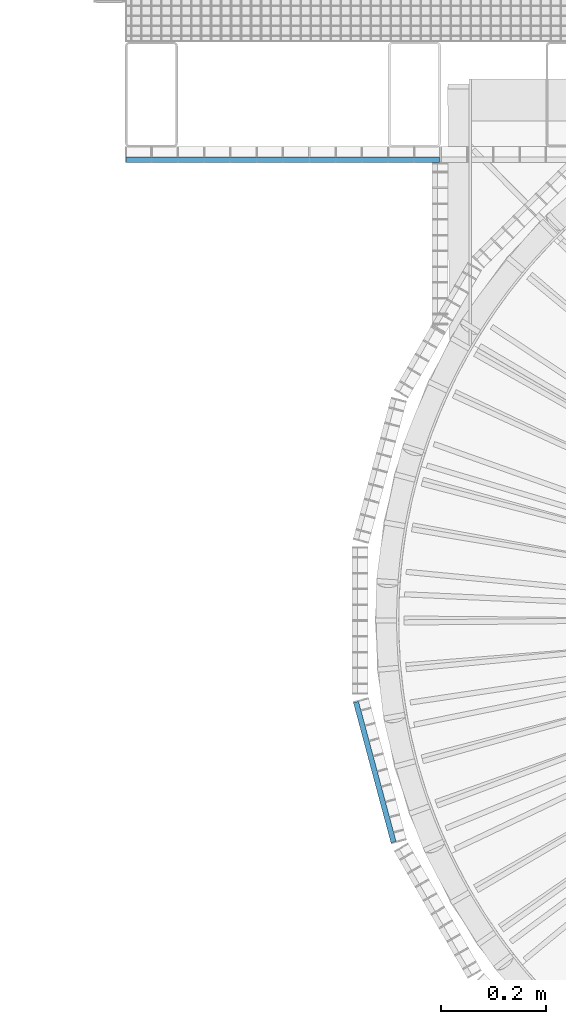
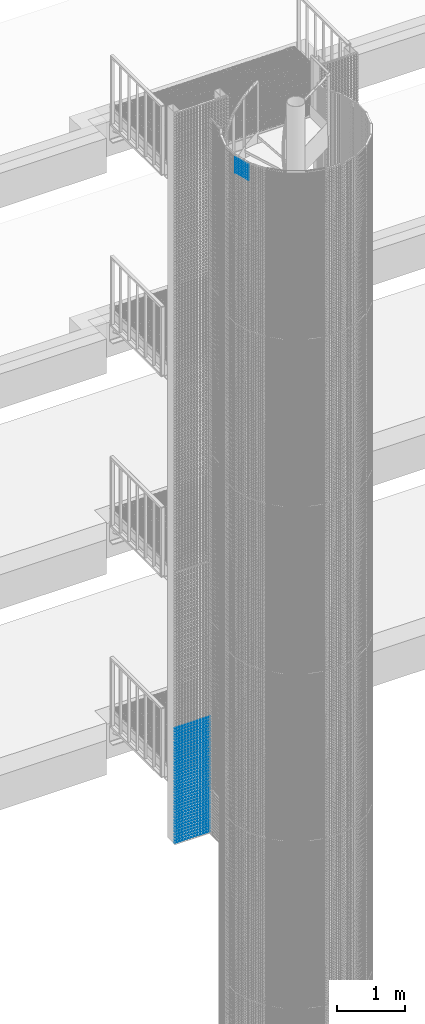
# One storey, part 336 of 1183: 52 beams, 43 elements without a shape of their own.
"""IFC2X3 building model written with IfcOpenShell, lengths in millimetres."""

from ifc_helpers import new_model, si_unit, frame, origin_with_axes, origin_2d_with_axis, place, context, subcontext, project, spatial, rectangle, extrude, material, type_object, element, aggregate, save


model = new_model("IFC2X3")

# Units and contexts
model_context = context("Model", 3, precision=1e-05, world=origin_with_axes())
body_context = subcontext(model_context, "Body", "Model", "MODEL_VIEW")
ifc_project = project(units=[si_unit("LENGTHUNIT", "METRE", prefix="MILLI"), si_unit("AREAUNIT", "SQUARE_METRE"), si_unit("VOLUMEUNIT", "CUBIC_METRE"), si_unit("MASSUNIT", "GRAM", prefix="KILO"), si_unit("TIMEUNIT", "SECOND"), si_unit("PLANEANGLEUNIT", "RADIAN"), si_unit("SOLIDANGLEUNIT", "STERADIAN"), si_unit("THERMODYNAMICTEMPERATUREUNIT", "DEGREE_CELSIUS"), si_unit("LUMINOUSINTENSITYUNIT", "LUMEN")], contexts=[model_context])

# Site, building, storey
site_placement = place(None, origin_with_axes())
site = spatial("IfcSite", under=ifc_project, at=site_placement, Name="Undefined", CompositionType="ELEMENT")
building_placement = place(site_placement, origin_with_axes())
building = spatial("IfcBuilding", under=site, at=building_placement, Name="Undefined", CompositionType="ELEMENT")
storey_placement = place(building_placement, origin_with_axes())
storey = spatial("IfcBuildingStorey", under=building, at=storey_placement, Name="Undefined", CompositionType="ELEMENT", Elevation=0.0)

# Assembly, beams
assembly_1_placement = place(storey_placement, origin_with_axes())
assembly_1 = element("IfcElementAssembly", 1, at=assembly_1_placement, inside=storey, Name="BORDURE", AssemblyPlace="NOTDEFINED", PredefinedType="NOTDEFINED")
ifc_material = material(Name="STEEL/S235JR")
beam_type = type_object("IfcBeamType", Name="PL2*10", PredefinedType="NOTDEFINED")
beam_1_placement = place(assembly_1_placement, frame((20560.1769047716, -421.483733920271, 17970.0), z_axis=(-0.965925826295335, -0.258819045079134, 0.0), x_axis=(-0.258819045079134, 0.965925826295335, 0.0)))
beam_1 = element("IfcBeam", 2, at=beam_1_placement, type_object=beam_type, material=ifc_material, Name="ENTRETOISE", context=body_context, shape_type="SweptSolid", body=[
    extrude(rectangle(XDim=2.0, YDim=10.0, at=origin_2d_with_axis()), frame((275.999999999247, 9.09494701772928e-13, 1.53210777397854e-14), z_axis=(-1.0, 0.0, 0.0), x_axis=(0.0, -1.0, 0.0)), (0.0, 0.0, 1.0), 276.0),
])
beam_2_placement = place(assembly_1_placement, frame((20560.1769047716, -421.483733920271, 17940.0), z_axis=(-0.965925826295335, -0.258819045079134, 0.0), x_axis=(-0.258819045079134, 0.965925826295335, 0.0)))
beam_2 = element("IfcBeam", 3, at=beam_2_placement, type_object=beam_type, material=ifc_material, Name="ENTRETOISE", context=body_context, shape_type="SweptSolid", body=[
    extrude(rectangle(XDim=2.0, YDim=10.0, at=origin_2d_with_axis()), frame((275.999999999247, 9.09494701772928e-13, 1.53210777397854e-14), z_axis=(-1.0, 0.0, 0.0), x_axis=(0.0, -1.0, 0.0)), (0.0, 0.0, 1.0), 276.0),
])
beam_3_placement = place(assembly_1_placement, frame((20560.1769047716, -421.483733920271, 17910.0), z_axis=(-0.965925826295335, -0.258819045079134, 0.0), x_axis=(-0.258819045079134, 0.965925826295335, 0.0)))
beam_3 = element("IfcBeam", 4, at=beam_3_placement, type_object=beam_type, material=ifc_material, Name="ENTRETOISE", context=body_context, shape_type="SweptSolid", body=[
    extrude(rectangle(XDim=2.0, YDim=10.0, at=origin_2d_with_axis()), frame((275.999999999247, 9.09494701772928e-13, 1.53210777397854e-14), z_axis=(-1.0, 0.0, 0.0), x_axis=(0.0, -1.0, 0.0)), (0.0, 0.0, 1.0), 276.0),
])
beam_4_placement = place(assembly_1_placement, frame((20560.1769047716, -421.483733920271, 17880.0), z_axis=(-0.965925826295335, -0.258819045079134, 0.0), x_axis=(-0.258819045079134, 0.965925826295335, 0.0)))
beam_4 = element("IfcBeam", 5, at=beam_4_placement, type_object=beam_type, material=ifc_material, Name="ENTRETOISE", context=body_context, shape_type="SweptSolid", body=[
    extrude(rectangle(XDim=2.0, YDim=10.0, at=origin_2d_with_axis()), frame((275.999999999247, 9.09494701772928e-13, 1.53210777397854e-14), z_axis=(-1.0, 0.0, 0.0), x_axis=(0.0, -1.0, 0.0)), (0.0, 0.0, 1.0), 276.0),
])
beam_5_placement = place(assembly_1_placement, frame((20560.1769047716, -421.483733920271, 17850.0), z_axis=(-0.965925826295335, -0.258819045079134, 0.0), x_axis=(-0.258819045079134, 0.965925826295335, 0.0)))
beam_5 = element("IfcBeam", 6, at=beam_5_placement, type_object=beam_type, material=ifc_material, Name="ENTRETOISE", context=body_context, shape_type="SweptSolid", body=[
    extrude(rectangle(XDim=2.0, YDim=10.0, at=origin_2d_with_axis()), frame((275.999999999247, 9.09494701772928e-13, 1.53210777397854e-14), z_axis=(-1.0, 0.0, 0.0), x_axis=(0.0, -1.0, 0.0)), (0.0, 0.0, 1.0), 276.0),
])
beam_6_placement = place(assembly_1_placement, frame((20560.1769047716, -421.483733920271, 17820.0), z_axis=(-0.965925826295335, -0.258819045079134, 0.0), x_axis=(-0.258819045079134, 0.965925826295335, 0.0)))
beam_6 = element("IfcBeam", 7, at=beam_6_placement, type_object=beam_type, material=ifc_material, Name="ENTRETOISE", context=body_context, shape_type="SweptSolid", body=[
    extrude(rectangle(XDim=2.0, YDim=10.0, at=origin_2d_with_axis()), frame((275.999999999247, 9.09494701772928e-13, 1.53210777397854e-14), z_axis=(-1.0, 0.0, 0.0), x_axis=(0.0, -1.0, 0.0)), (0.0, 0.0, 1.0), 276.0),
])
beam_7_placement = place(assembly_1_placement, frame((20560.1769047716, -421.483733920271, 17790.0), z_axis=(-0.965925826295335, -0.258819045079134, 0.0), x_axis=(-0.258819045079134, 0.965925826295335, 0.0)))
beam_7 = element("IfcBeam", 8, at=beam_7_placement, type_object=beam_type, material=ifc_material, Name="ENTRETOISE", context=body_context, shape_type="SweptSolid", body=[
    extrude(rectangle(XDim=2.0, YDim=10.0, at=origin_2d_with_axis()), frame((275.999999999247, 9.09494701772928e-13, 1.53210777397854e-14), z_axis=(-1.0, 0.0, 0.0), x_axis=(0.0, -1.0, 0.0)), (0.0, 0.0, 1.0), 276.0),
])
beam_8_placement = place(assembly_1_placement, frame((20560.1769047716, -421.483733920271, 17760.0), z_axis=(-0.965925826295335, -0.258819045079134, 0.0), x_axis=(-0.258819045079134, 0.965925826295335, 0.0)))
beam_8 = element("IfcBeam", 9, at=beam_8_placement, type_object=beam_type, material=ifc_material, Name="ENTRETOISE", context=body_context, shape_type="SweptSolid", body=[
    extrude(rectangle(XDim=2.0, YDim=10.0, at=origin_2d_with_axis()), frame((275.999999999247, 9.09494701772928e-13, 1.53210777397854e-14), z_axis=(-1.0, 0.0, 0.0), x_axis=(0.0, -1.0, 0.0)), (0.0, 0.0, 1.0), 276.0),
])
beam_9_placement = place(assembly_1_placement, frame((20560.1769047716, -421.48373392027, 17730.0), z_axis=(-0.965925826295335, -0.258819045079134, 0.0), x_axis=(-0.258819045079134, 0.965925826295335, 0.0)))
beam_9 = element("IfcBeam", 10, at=beam_9_placement, type_object=beam_type, material=ifc_material, Name="ENTRETOISE", context=body_context, shape_type="SweptSolid", body=[
    extrude(rectangle(XDim=2.0, YDim=10.0, at=origin_2d_with_axis()), frame((275.999999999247, 9.09494701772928e-13, 1.53210777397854e-14), z_axis=(-1.0, 0.0, 0.0), x_axis=(0.0, -1.0, 0.0)), (0.0, 0.0, 1.0), 276.0),
])
beam_10_placement = place(assembly_1_placement, frame((20560.1769047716, -421.48373392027, 17700.0), z_axis=(-0.965925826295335, -0.258819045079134, 0.0), x_axis=(-0.258819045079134, 0.965925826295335, 0.0)))
beam_10 = element("IfcBeam", 11, at=beam_10_placement, type_object=beam_type, material=ifc_material, Name="ENTRETOISE", context=body_context, shape_type="SweptSolid", body=[
    extrude(rectangle(XDim=2.0, YDim=10.0, at=origin_2d_with_axis()), frame((275.999999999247, 9.09494701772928e-13, 1.53210777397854e-14), z_axis=(-1.0, 0.0, 0.0), x_axis=(0.0, -1.0, 0.0)), (0.0, 0.0, 1.0), 276.0),
])
aggregate(assembly_1, [beam_1, beam_2, beam_3, beam_4, beam_5, beam_6, beam_7, beam_8, beam_9, beam_10])

# Assembly, beam
assembly_2_placement = place(storey_placement, origin_with_axes())
assembly_2 = element("IfcElementAssembly", 12, at=assembly_2_placement, inside=storey, AssemblyPlace="NOTDEFINED", PredefinedType="NOTDEFINED")
beam_11_placement = place(assembly_2_placement, frame((20647.930410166, 876.014689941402, 7254.998), z_axis=(0.0, -1.0, 0.0), x_axis=(-1.0, 0.0, 0.0)))
beam_11 = element("IfcBeam", 13, at=beam_11_placement, type_object=beam_type, material=ifc_material, Name="ENTRETOISE", context=body_context, shape_type="SweptSolid", body=[
    extrude(rectangle(XDim=2.0, YDim=10.0, at=origin_2d_with_axis()), frame((596.0, 0.0, 0.0), z_axis=(-1.0, 0.0, 0.0), x_axis=(0.0, -1.0, 0.0)), (0.0, 0.0, 1.0), 596.0),
])
aggregate(assembly_2, [beam_11])

assembly_3_placement = place(storey_placement, origin_with_axes())
assembly_3 = element("IfcElementAssembly", 14, at=assembly_3_placement, inside=storey, AssemblyPlace="NOTDEFINED", PredefinedType="NOTDEFINED")
beam_12_placement = place(assembly_3_placement, frame((20647.930410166, 876.014689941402, 7204.998), z_axis=(0.0, -1.0, 0.0), x_axis=(-1.0, 0.0, 0.0)))
beam_12 = element("IfcBeam", 15, at=beam_12_placement, type_object=beam_type, material=ifc_material, Name="ENTRETOISE", context=body_context, shape_type="SweptSolid", body=[
    extrude(rectangle(XDim=2.0, YDim=10.0, at=origin_2d_with_axis()), frame((596.0, 0.0, 0.0), z_axis=(-1.0, 0.0, 0.0), x_axis=(0.0, -1.0, 0.0)), (0.0, 0.0, 1.0), 596.0),
])
aggregate(assembly_3, [beam_12])

assembly_4_placement = place(storey_placement, origin_with_axes())
assembly_4 = element("IfcElementAssembly", 16, at=assembly_4_placement, inside=storey, AssemblyPlace="NOTDEFINED", PredefinedType="NOTDEFINED")
beam_13_placement = place(assembly_4_placement, frame((20647.930410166, 876.014689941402, 7154.998), z_axis=(0.0, -1.0, 0.0), x_axis=(-1.0, 0.0, 0.0)))
beam_13 = element("IfcBeam", 17, at=beam_13_placement, type_object=beam_type, material=ifc_material, Name="ENTRETOISE", context=body_context, shape_type="SweptSolid", body=[
    extrude(rectangle(XDim=2.0, YDim=10.0, at=origin_2d_with_axis()), frame((596.0, 0.0, 0.0), z_axis=(-1.0, 0.0, 0.0), x_axis=(0.0, -1.0, 0.0)), (0.0, 0.0, 1.0), 596.0),
])
aggregate(assembly_4, [beam_13])

assembly_5_placement = place(storey_placement, origin_with_axes())
assembly_5 = element("IfcElementAssembly", 18, at=assembly_5_placement, inside=storey, AssemblyPlace="NOTDEFINED", PredefinedType="NOTDEFINED")
beam_14_placement = place(assembly_5_placement, frame((20647.930410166, 876.014689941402, 7104.998), z_axis=(0.0, -1.0, 0.0), x_axis=(-1.0, 0.0, 0.0)))
beam_14 = element("IfcBeam", 19, at=beam_14_placement, type_object=beam_type, material=ifc_material, Name="ENTRETOISE", context=body_context, shape_type="SweptSolid", body=[
    extrude(rectangle(XDim=2.0, YDim=10.0, at=origin_2d_with_axis()), frame((596.0, 0.0, 0.0), z_axis=(-1.0, 0.0, 0.0), x_axis=(0.0, -1.0, 0.0)), (0.0, 0.0, 1.0), 596.0),
])
aggregate(assembly_5, [beam_14])

assembly_6_placement = place(storey_placement, origin_with_axes())
assembly_6 = element("IfcElementAssembly", 20, at=assembly_6_placement, inside=storey, AssemblyPlace="NOTDEFINED", PredefinedType="NOTDEFINED")
beam_15_placement = place(assembly_6_placement, frame((20647.930410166, 876.014689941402, 7054.998), z_axis=(0.0, -1.0, 0.0), x_axis=(-1.0, 0.0, 0.0)))
beam_15 = element("IfcBeam", 21, at=beam_15_placement, type_object=beam_type, material=ifc_material, Name="ENTRETOISE", context=body_context, shape_type="SweptSolid", body=[
    extrude(rectangle(XDim=2.0, YDim=10.0, at=origin_2d_with_axis()), frame((596.0, 0.0, 0.0), z_axis=(-1.0, 0.0, 0.0), x_axis=(0.0, -1.0, 0.0)), (0.0, 0.0, 1.0), 596.0),
])
aggregate(assembly_6, [beam_15])

assembly_7_placement = place(storey_placement, origin_with_axes())
assembly_7 = element("IfcElementAssembly", 22, at=assembly_7_placement, inside=storey, AssemblyPlace="NOTDEFINED", PredefinedType="NOTDEFINED")
beam_16_placement = place(assembly_7_placement, frame((20647.930410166, 876.014689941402, 7004.998), z_axis=(0.0, -1.0, 0.0), x_axis=(-1.0, 0.0, 0.0)))
beam_16 = element("IfcBeam", 23, at=beam_16_placement, type_object=beam_type, material=ifc_material, Name="ENTRETOISE", context=body_context, shape_type="SweptSolid", body=[
    extrude(rectangle(XDim=2.0, YDim=10.0, at=origin_2d_with_axis()), frame((596.0, 0.0, 0.0), z_axis=(-1.0, 0.0, 0.0), x_axis=(0.0, -1.0, 0.0)), (0.0, 0.0, 1.0), 596.0),
])
aggregate(assembly_7, [beam_16])

assembly_8_placement = place(storey_placement, origin_with_axes())
assembly_8 = element("IfcElementAssembly", 24, at=assembly_8_placement, inside=storey, AssemblyPlace="NOTDEFINED", PredefinedType="NOTDEFINED")
beam_17_placement = place(assembly_8_placement, frame((20647.930410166, 876.014689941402, 6954.998), z_axis=(0.0, -1.0, 0.0), x_axis=(-1.0, 0.0, 0.0)))
beam_17 = element("IfcBeam", 25, at=beam_17_placement, type_object=beam_type, material=ifc_material, Name="ENTRETOISE", context=body_context, shape_type="SweptSolid", body=[
    extrude(rectangle(XDim=2.0, YDim=10.0, at=origin_2d_with_axis()), frame((596.0, 0.0, 0.0), z_axis=(-1.0, 0.0, 0.0), x_axis=(0.0, -1.0, 0.0)), (0.0, 0.0, 1.0), 596.0),
])
aggregate(assembly_8, [beam_17])

assembly_9_placement = place(storey_placement, origin_with_axes())
assembly_9 = element("IfcElementAssembly", 26, at=assembly_9_placement, inside=storey, AssemblyPlace="NOTDEFINED", PredefinedType="NOTDEFINED")
beam_18_placement = place(assembly_9_placement, frame((20647.930410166, 876.014689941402, 6904.998), z_axis=(0.0, -1.0, 0.0), x_axis=(-1.0, 0.0, 0.0)))
beam_18 = element("IfcBeam", 27, at=beam_18_placement, type_object=beam_type, material=ifc_material, Name="ENTRETOISE", context=body_context, shape_type="SweptSolid", body=[
    extrude(rectangle(XDim=2.0, YDim=10.0, at=origin_2d_with_axis()), frame((596.0, 0.0, 0.0), z_axis=(-1.0, 0.0, 0.0), x_axis=(0.0, -1.0, 0.0)), (0.0, 0.0, 1.0), 596.0),
])
aggregate(assembly_9, [beam_18])

assembly_10_placement = place(storey_placement, origin_with_axes())
assembly_10 = element("IfcElementAssembly", 28, at=assembly_10_placement, inside=storey, AssemblyPlace="NOTDEFINED", PredefinedType="NOTDEFINED")
beam_19_placement = place(assembly_10_placement, frame((20647.930410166, 876.014689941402, 6854.998), z_axis=(0.0, -1.0, 0.0), x_axis=(-1.0, 0.0, 0.0)))
beam_19 = element("IfcBeam", 29, at=beam_19_placement, type_object=beam_type, material=ifc_material, Name="ENTRETOISE", context=body_context, shape_type="SweptSolid", body=[
    extrude(rectangle(XDim=2.0, YDim=10.0, at=origin_2d_with_axis()), frame((596.0, 0.0, 0.0), z_axis=(-1.0, 0.0, 0.0), x_axis=(0.0, -1.0, 0.0)), (0.0, 0.0, 1.0), 596.0),
])
aggregate(assembly_10, [beam_19])

assembly_11_placement = place(storey_placement, origin_with_axes())
assembly_11 = element("IfcElementAssembly", 30, at=assembly_11_placement, inside=storey, AssemblyPlace="NOTDEFINED", PredefinedType="NOTDEFINED")
beam_20_placement = place(assembly_11_placement, frame((20647.930410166, 876.014689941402, 6804.998), z_axis=(0.0, -1.0, 0.0), x_axis=(-1.0, 0.0, 0.0)))
beam_20 = element("IfcBeam", 31, at=beam_20_placement, type_object=beam_type, material=ifc_material, Name="ENTRETOISE", context=body_context, shape_type="SweptSolid", body=[
    extrude(rectangle(XDim=2.0, YDim=10.0, at=origin_2d_with_axis()), frame((596.0, 0.0, 0.0), z_axis=(-1.0, 0.0, 0.0), x_axis=(0.0, -1.0, 0.0)), (0.0, 0.0, 1.0), 596.0),
])
aggregate(assembly_11, [beam_20])

assembly_12_placement = place(storey_placement, origin_with_axes())
assembly_12 = element("IfcElementAssembly", 32, at=assembly_12_placement, inside=storey, AssemblyPlace="NOTDEFINED", PredefinedType="NOTDEFINED")
beam_21_placement = place(assembly_12_placement, frame((20647.930410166, 876.014689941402, 6754.998), z_axis=(0.0, -1.0, 0.0), x_axis=(-1.0, 0.0, 0.0)))
beam_21 = element("IfcBeam", 33, at=beam_21_placement, type_object=beam_type, material=ifc_material, Name="ENTRETOISE", context=body_context, shape_type="SweptSolid", body=[
    extrude(rectangle(XDim=2.0, YDim=10.0, at=origin_2d_with_axis()), frame((596.0, 0.0, 0.0), z_axis=(-1.0, 0.0, 0.0), x_axis=(0.0, -1.0, 0.0)), (0.0, 0.0, 1.0), 596.0),
])
aggregate(assembly_12, [beam_21])

assembly_13_placement = place(storey_placement, origin_with_axes())
assembly_13 = element("IfcElementAssembly", 34, at=assembly_13_placement, inside=storey, AssemblyPlace="NOTDEFINED", PredefinedType="NOTDEFINED")
beam_22_placement = place(assembly_13_placement, frame((20647.930410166, 876.014689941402, 6704.998), z_axis=(0.0, -1.0, 0.0), x_axis=(-1.0, 0.0, 0.0)))
beam_22 = element("IfcBeam", 35, at=beam_22_placement, type_object=beam_type, material=ifc_material, Name="ENTRETOISE", context=body_context, shape_type="SweptSolid", body=[
    extrude(rectangle(XDim=2.0, YDim=10.0, at=origin_2d_with_axis()), frame((596.0, 0.0, 0.0), z_axis=(-1.0, 0.0, 0.0), x_axis=(0.0, -1.0, 0.0)), (0.0, 0.0, 1.0), 596.0),
])
aggregate(assembly_13, [beam_22])

assembly_14_placement = place(storey_placement, origin_with_axes())
assembly_14 = element("IfcElementAssembly", 36, at=assembly_14_placement, inside=storey, AssemblyPlace="NOTDEFINED", PredefinedType="NOTDEFINED")
beam_23_placement = place(assembly_14_placement, frame((20647.930410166, 876.014689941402, 6654.998), z_axis=(0.0, -1.0, 0.0), x_axis=(-1.0, 0.0, 0.0)))
beam_23 = element("IfcBeam", 37, at=beam_23_placement, type_object=beam_type, material=ifc_material, Name="ENTRETOISE", context=body_context, shape_type="SweptSolid", body=[
    extrude(rectangle(XDim=2.0, YDim=10.0, at=origin_2d_with_axis()), frame((596.0, 0.0, 0.0), z_axis=(-1.0, 0.0, 0.0), x_axis=(0.0, -1.0, 0.0)), (0.0, 0.0, 1.0), 596.0),
])
aggregate(assembly_14, [beam_23])

assembly_15_placement = place(storey_placement, origin_with_axes())
assembly_15 = element("IfcElementAssembly", 38, at=assembly_15_placement, inside=storey, AssemblyPlace="NOTDEFINED", PredefinedType="NOTDEFINED")
beam_24_placement = place(assembly_15_placement, frame((20647.930410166, 876.014689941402, 6604.998), z_axis=(0.0, -1.0, 0.0), x_axis=(-1.0, 0.0, 0.0)))
beam_24 = element("IfcBeam", 39, at=beam_24_placement, type_object=beam_type, material=ifc_material, Name="ENTRETOISE", context=body_context, shape_type="SweptSolid", body=[
    extrude(rectangle(XDim=2.0, YDim=10.0, at=origin_2d_with_axis()), frame((596.0, 0.0, 0.0), z_axis=(-1.0, 0.0, 0.0), x_axis=(0.0, -1.0, 0.0)), (0.0, 0.0, 1.0), 596.0),
])
aggregate(assembly_15, [beam_24])

assembly_16_placement = place(storey_placement, origin_with_axes())
assembly_16 = element("IfcElementAssembly", 40, at=assembly_16_placement, inside=storey, AssemblyPlace="NOTDEFINED", PredefinedType="NOTDEFINED")
beam_25_placement = place(assembly_16_placement, frame((20647.930410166, 876.014689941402, 6554.998), z_axis=(0.0, -1.0, 0.0), x_axis=(-1.0, 0.0, 0.0)))
beam_25 = element("IfcBeam", 41, at=beam_25_placement, type_object=beam_type, material=ifc_material, Name="ENTRETOISE", context=body_context, shape_type="SweptSolid", body=[
    extrude(rectangle(XDim=2.0, YDim=10.0, at=origin_2d_with_axis()), frame((596.0, 0.0, 0.0), z_axis=(-1.0, 0.0, 0.0), x_axis=(0.0, -1.0, 0.0)), (0.0, 0.0, 1.0), 596.0),
])
aggregate(assembly_16, [beam_25])

assembly_17_placement = place(storey_placement, origin_with_axes())
assembly_17 = element("IfcElementAssembly", 42, at=assembly_17_placement, inside=storey, AssemblyPlace="NOTDEFINED", PredefinedType="NOTDEFINED")
beam_26_placement = place(assembly_17_placement, frame((20647.930410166, 876.014689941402, 6504.998), z_axis=(0.0, -1.0, 0.0), x_axis=(-1.0, 0.0, 0.0)))
beam_26 = element("IfcBeam", 43, at=beam_26_placement, type_object=beam_type, material=ifc_material, Name="ENTRETOISE", context=body_context, shape_type="SweptSolid", body=[
    extrude(rectangle(XDim=2.0, YDim=10.0, at=origin_2d_with_axis()), frame((596.0, 0.0, 0.0), z_axis=(-1.0, 0.0, 0.0), x_axis=(0.0, -1.0, 0.0)), (0.0, 0.0, 1.0), 596.0),
])
aggregate(assembly_17, [beam_26])

assembly_18_placement = place(storey_placement, origin_with_axes())
assembly_18 = element("IfcElementAssembly", 44, at=assembly_18_placement, inside=storey, AssemblyPlace="NOTDEFINED", PredefinedType="NOTDEFINED")
beam_27_placement = place(assembly_18_placement, frame((20647.930410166, 876.014689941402, 6454.998), z_axis=(0.0, -1.0, 0.0), x_axis=(-1.0, 0.0, 0.0)))
beam_27 = element("IfcBeam", 45, at=beam_27_placement, type_object=beam_type, material=ifc_material, Name="ENTRETOISE", context=body_context, shape_type="SweptSolid", body=[
    extrude(rectangle(XDim=2.0, YDim=10.0, at=origin_2d_with_axis()), frame((596.0, 0.0, 0.0), z_axis=(-1.0, 0.0, 0.0), x_axis=(0.0, -1.0, 0.0)), (0.0, 0.0, 1.0), 596.0),
])
aggregate(assembly_18, [beam_27])

assembly_19_placement = place(storey_placement, origin_with_axes())
assembly_19 = element("IfcElementAssembly", 46, at=assembly_19_placement, inside=storey, AssemblyPlace="NOTDEFINED", PredefinedType="NOTDEFINED")
beam_28_placement = place(assembly_19_placement, frame((20647.930410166, 876.014689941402, 6404.998), z_axis=(0.0, -1.0, 0.0), x_axis=(-1.0, 0.0, 0.0)))
beam_28 = element("IfcBeam", 47, at=beam_28_placement, type_object=beam_type, material=ifc_material, Name="ENTRETOISE", context=body_context, shape_type="SweptSolid", body=[
    extrude(rectangle(XDim=2.0, YDim=10.0, at=origin_2d_with_axis()), frame((596.0, 0.0, 0.0), z_axis=(-1.0, 0.0, 0.0), x_axis=(0.0, -1.0, 0.0)), (0.0, 0.0, 1.0), 596.0),
])
aggregate(assembly_19, [beam_28])

assembly_20_placement = place(storey_placement, origin_with_axes())
assembly_20 = element("IfcElementAssembly", 48, at=assembly_20_placement, inside=storey, AssemblyPlace="NOTDEFINED", PredefinedType="NOTDEFINED")
beam_29_placement = place(assembly_20_placement, frame((20647.930410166, 876.014689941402, 6354.998), z_axis=(0.0, -1.0, 0.0), x_axis=(-1.0, 0.0, 0.0)))
beam_29 = element("IfcBeam", 49, at=beam_29_placement, type_object=beam_type, material=ifc_material, Name="ENTRETOISE", context=body_context, shape_type="SweptSolid", body=[
    extrude(rectangle(XDim=2.0, YDim=10.0, at=origin_2d_with_axis()), frame((596.0, 0.0, 0.0), z_axis=(-1.0, 0.0, 0.0), x_axis=(0.0, -1.0, 0.0)), (0.0, 0.0, 1.0), 596.0),
])
aggregate(assembly_20, [beam_29])

assembly_21_placement = place(storey_placement, origin_with_axes())
assembly_21 = element("IfcElementAssembly", 50, at=assembly_21_placement, inside=storey, AssemblyPlace="NOTDEFINED", PredefinedType="NOTDEFINED")
beam_30_placement = place(assembly_21_placement, frame((20647.930410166, 876.014689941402, 6304.998), z_axis=(0.0, -1.0, 0.0), x_axis=(-1.0, 0.0, 0.0)))
beam_30 = element("IfcBeam", 51, at=beam_30_placement, type_object=beam_type, material=ifc_material, Name="ENTRETOISE", context=body_context, shape_type="SweptSolid", body=[
    extrude(rectangle(XDim=2.0, YDim=10.0, at=origin_2d_with_axis()), frame((596.0, 0.0, 0.0), z_axis=(-1.0, 0.0, 0.0), x_axis=(0.0, -1.0, 0.0)), (0.0, 0.0, 1.0), 596.0),
])
aggregate(assembly_21, [beam_30])

assembly_22_placement = place(storey_placement, origin_with_axes())
assembly_22 = element("IfcElementAssembly", 52, at=assembly_22_placement, inside=storey, AssemblyPlace="NOTDEFINED", PredefinedType="NOTDEFINED")
beam_31_placement = place(assembly_22_placement, frame((20647.930410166, 876.014689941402, 6254.998), z_axis=(0.0, -1.0, 0.0), x_axis=(-1.0, 0.0, 0.0)))
beam_31 = element("IfcBeam", 53, at=beam_31_placement, type_object=beam_type, material=ifc_material, Name="ENTRETOISE", context=body_context, shape_type="SweptSolid", body=[
    extrude(rectangle(XDim=2.0, YDim=10.0, at=origin_2d_with_axis()), frame((596.0, 0.0, 0.0), z_axis=(-1.0, 0.0, 0.0), x_axis=(0.0, -1.0, 0.0)), (0.0, 0.0, 1.0), 596.0),
])
aggregate(assembly_22, [beam_31])

assembly_23_placement = place(storey_placement, origin_with_axes())
assembly_23 = element("IfcElementAssembly", 54, at=assembly_23_placement, inside=storey, AssemblyPlace="NOTDEFINED", PredefinedType="NOTDEFINED")
beam_32_placement = place(assembly_23_placement, frame((20647.930410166, 876.014689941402, 6204.998), z_axis=(0.0, -1.0, 0.0), x_axis=(-1.0, 0.0, 0.0)))
beam_32 = element("IfcBeam", 55, at=beam_32_placement, type_object=beam_type, material=ifc_material, Name="ENTRETOISE", context=body_context, shape_type="SweptSolid", body=[
    extrude(rectangle(XDim=2.0, YDim=10.0, at=origin_2d_with_axis()), frame((596.0, 0.0, 0.0), z_axis=(-1.0, 0.0, 0.0), x_axis=(0.0, -1.0, 0.0)), (0.0, 0.0, 1.0), 596.0),
])
aggregate(assembly_23, [beam_32])

assembly_24_placement = place(storey_placement, origin_with_axes())
assembly_24 = element("IfcElementAssembly", 56, at=assembly_24_placement, inside=storey, AssemblyPlace="NOTDEFINED", PredefinedType="NOTDEFINED")
beam_33_placement = place(assembly_24_placement, frame((20647.930410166, 876.014689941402, 6154.998), z_axis=(0.0, -1.0, 0.0), x_axis=(-1.0, 0.0, 0.0)))
beam_33 = element("IfcBeam", 57, at=beam_33_placement, type_object=beam_type, material=ifc_material, Name="ENTRETOISE", context=body_context, shape_type="SweptSolid", body=[
    extrude(rectangle(XDim=2.0, YDim=10.0, at=origin_2d_with_axis()), frame((596.0, 0.0, 0.0), z_axis=(-1.0, 0.0, 0.0), x_axis=(0.0, -1.0, 0.0)), (0.0, 0.0, 1.0), 596.0),
])
aggregate(assembly_24, [beam_33])

assembly_25_placement = place(storey_placement, origin_with_axes())
assembly_25 = element("IfcElementAssembly", 58, at=assembly_25_placement, inside=storey, AssemblyPlace="NOTDEFINED", PredefinedType="NOTDEFINED")
beam_34_placement = place(assembly_25_placement, frame((20647.930410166, 876.014689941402, 6104.998), z_axis=(0.0, -1.0, 0.0), x_axis=(-1.0, 0.0, 0.0)))
beam_34 = element("IfcBeam", 59, at=beam_34_placement, type_object=beam_type, material=ifc_material, Name="ENTRETOISE", context=body_context, shape_type="SweptSolid", body=[
    extrude(rectangle(XDim=2.0, YDim=10.0, at=origin_2d_with_axis()), frame((596.0, 0.0, 0.0), z_axis=(-1.0, 0.0, 0.0), x_axis=(0.0, -1.0, 0.0)), (0.0, 0.0, 1.0), 596.0),
])
aggregate(assembly_25, [beam_34])

assembly_26_placement = place(storey_placement, origin_with_axes())
assembly_26 = element("IfcElementAssembly", 60, at=assembly_26_placement, inside=storey, AssemblyPlace="NOTDEFINED", PredefinedType="NOTDEFINED")
beam_35_placement = place(assembly_26_placement, frame((20647.930410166, 876.014689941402, 6054.998), z_axis=(0.0, -1.0, 0.0), x_axis=(-1.0, 0.0, 0.0)))
beam_35 = element("IfcBeam", 61, at=beam_35_placement, type_object=beam_type, material=ifc_material, Name="ENTRETOISE", context=body_context, shape_type="SweptSolid", body=[
    extrude(rectangle(XDim=2.0, YDim=10.0, at=origin_2d_with_axis()), frame((596.0, 0.0, 0.0), z_axis=(-1.0, 0.0, 0.0), x_axis=(0.0, -1.0, 0.0)), (0.0, 0.0, 1.0), 596.0),
])
aggregate(assembly_26, [beam_35])

assembly_27_placement = place(storey_placement, origin_with_axes())
assembly_27 = element("IfcElementAssembly", 62, at=assembly_27_placement, inside=storey, AssemblyPlace="NOTDEFINED", PredefinedType="NOTDEFINED")
beam_36_placement = place(assembly_27_placement, frame((20647.930410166, 876.014689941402, 6004.998), z_axis=(0.0, -1.0, 0.0), x_axis=(-1.0, 0.0, 0.0)))
beam_36 = element("IfcBeam", 63, at=beam_36_placement, type_object=beam_type, material=ifc_material, Name="ENTRETOISE", context=body_context, shape_type="SweptSolid", body=[
    extrude(rectangle(XDim=2.0, YDim=10.0, at=origin_2d_with_axis()), frame((596.0, 0.0, 0.0), z_axis=(-1.0, 0.0, 0.0), x_axis=(0.0, -1.0, 0.0)), (0.0, 0.0, 1.0), 596.0),
])
aggregate(assembly_27, [beam_36])

assembly_28_placement = place(storey_placement, origin_with_axes())
assembly_28 = element("IfcElementAssembly", 64, at=assembly_28_placement, inside=storey, AssemblyPlace="NOTDEFINED", PredefinedType="NOTDEFINED")
beam_37_placement = place(assembly_28_placement, frame((20647.930410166, 876.014689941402, 5954.998), z_axis=(0.0, -1.0, 0.0), x_axis=(-1.0, 0.0, 0.0)))
beam_37 = element("IfcBeam", 65, at=beam_37_placement, type_object=beam_type, material=ifc_material, Name="ENTRETOISE", context=body_context, shape_type="SweptSolid", body=[
    extrude(rectangle(XDim=2.0, YDim=10.0, at=origin_2d_with_axis()), frame((596.0, 0.0, 0.0), z_axis=(-1.0, 0.0, 0.0), x_axis=(0.0, -1.0, 0.0)), (0.0, 0.0, 1.0), 596.0),
])
aggregate(assembly_28, [beam_37])

assembly_29_placement = place(storey_placement, origin_with_axes())
assembly_29 = element("IfcElementAssembly", 66, at=assembly_29_placement, inside=storey, AssemblyPlace="NOTDEFINED", PredefinedType="NOTDEFINED")
beam_38_placement = place(assembly_29_placement, frame((20647.930410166, 876.014689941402, 5904.998), z_axis=(0.0, -1.0, 0.0), x_axis=(-1.0, 0.0, 0.0)))
beam_38 = element("IfcBeam", 67, at=beam_38_placement, type_object=beam_type, material=ifc_material, Name="ENTRETOISE", context=body_context, shape_type="SweptSolid", body=[
    extrude(rectangle(XDim=2.0, YDim=10.0, at=origin_2d_with_axis()), frame((596.0, 0.0, 0.0), z_axis=(-1.0, 0.0, 0.0), x_axis=(0.0, -1.0, 0.0)), (0.0, 0.0, 1.0), 596.0),
])
aggregate(assembly_29, [beam_38])

assembly_30_placement = place(storey_placement, origin_with_axes())
assembly_30 = element("IfcElementAssembly", 68, at=assembly_30_placement, inside=storey, AssemblyPlace="NOTDEFINED", PredefinedType="NOTDEFINED")
beam_39_placement = place(assembly_30_placement, frame((20647.930410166, 876.014689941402, 5854.998), z_axis=(0.0, -1.0, 0.0), x_axis=(-1.0, 0.0, 0.0)))
beam_39 = element("IfcBeam", 69, at=beam_39_placement, type_object=beam_type, material=ifc_material, Name="ENTRETOISE", context=body_context, shape_type="SweptSolid", body=[
    extrude(rectangle(XDim=2.0, YDim=10.0, at=origin_2d_with_axis()), frame((596.0, 0.0, 0.0), z_axis=(-1.0, 0.0, 0.0), x_axis=(0.0, -1.0, 0.0)), (0.0, 0.0, 1.0), 596.0),
])
aggregate(assembly_30, [beam_39])

assembly_31_placement = place(storey_placement, origin_with_axes())
assembly_31 = element("IfcElementAssembly", 70, at=assembly_31_placement, inside=storey, AssemblyPlace="NOTDEFINED", PredefinedType="NOTDEFINED")
beam_40_placement = place(assembly_31_placement, frame((20647.930410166, 876.014689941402, 5804.998), z_axis=(0.0, -1.0, 0.0), x_axis=(-1.0, 0.0, 0.0)))
beam_40 = element("IfcBeam", 71, at=beam_40_placement, type_object=beam_type, material=ifc_material, Name="ENTRETOISE", context=body_context, shape_type="SweptSolid", body=[
    extrude(rectangle(XDim=2.0, YDim=10.0, at=origin_2d_with_axis()), frame((596.0, 0.0, 0.0), z_axis=(-1.0, 0.0, 0.0), x_axis=(0.0, -1.0, 0.0)), (0.0, 0.0, 1.0), 596.0),
])
aggregate(assembly_31, [beam_40])

assembly_32_placement = place(storey_placement, origin_with_axes())
assembly_32 = element("IfcElementAssembly", 72, at=assembly_32_placement, inside=storey, AssemblyPlace="NOTDEFINED", PredefinedType="NOTDEFINED")
beam_41_placement = place(assembly_32_placement, frame((20647.930410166, 876.014689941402, 5754.998), z_axis=(0.0, -1.0, 0.0), x_axis=(-1.0, 0.0, 0.0)))
beam_41 = element("IfcBeam", 73, at=beam_41_placement, type_object=beam_type, material=ifc_material, Name="ENTRETOISE", context=body_context, shape_type="SweptSolid", body=[
    extrude(rectangle(XDim=2.0, YDim=10.0, at=origin_2d_with_axis()), frame((596.0, 0.0, 0.0), z_axis=(-1.0, 0.0, 0.0), x_axis=(0.0, -1.0, 0.0)), (0.0, 0.0, 1.0), 596.0),
])
aggregate(assembly_32, [beam_41])

assembly_33_placement = place(storey_placement, origin_with_axes())
assembly_33 = element("IfcElementAssembly", 74, at=assembly_33_placement, inside=storey, AssemblyPlace="NOTDEFINED", PredefinedType="NOTDEFINED")
beam_42_placement = place(assembly_33_placement, frame((20647.930410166, 876.014689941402, 5704.998), z_axis=(0.0, -1.0, 0.0), x_axis=(-1.0, 0.0, 0.0)))
beam_42 = element("IfcBeam", 75, at=beam_42_placement, type_object=beam_type, material=ifc_material, Name="ENTRETOISE", context=body_context, shape_type="SweptSolid", body=[
    extrude(rectangle(XDim=2.0, YDim=10.0, at=origin_2d_with_axis()), frame((596.0, 0.0, 0.0), z_axis=(-1.0, 0.0, 0.0), x_axis=(0.0, -1.0, 0.0)), (0.0, 0.0, 1.0), 596.0),
])
aggregate(assembly_33, [beam_42])

assembly_34_placement = place(storey_placement, origin_with_axes())
assembly_34 = element("IfcElementAssembly", 76, at=assembly_34_placement, inside=storey, AssemblyPlace="NOTDEFINED", PredefinedType="NOTDEFINED")
beam_43_placement = place(assembly_34_placement, frame((20647.930410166, 876.014689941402, 5654.998), z_axis=(0.0, -1.0, 0.0), x_axis=(-1.0, 0.0, 0.0)))
beam_43 = element("IfcBeam", 77, at=beam_43_placement, type_object=beam_type, material=ifc_material, Name="ENTRETOISE", context=body_context, shape_type="SweptSolid", body=[
    extrude(rectangle(XDim=2.0, YDim=10.0, at=origin_2d_with_axis()), frame((596.0, 0.0, 0.0), z_axis=(-1.0, 0.0, 0.0), x_axis=(0.0, -1.0, 0.0)), (0.0, 0.0, 1.0), 596.0),
])
aggregate(assembly_34, [beam_43])

assembly_35_placement = place(storey_placement, origin_with_axes())
assembly_35 = element("IfcElementAssembly", 78, at=assembly_35_placement, inside=storey, AssemblyPlace="NOTDEFINED", PredefinedType="NOTDEFINED")
beam_44_placement = place(assembly_35_placement, frame((20647.930410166, 876.014689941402, 5604.998), z_axis=(0.0, -1.0, 0.0), x_axis=(-1.0, 0.0, 0.0)))
beam_44 = element("IfcBeam", 79, at=beam_44_placement, type_object=beam_type, material=ifc_material, Name="ENTRETOISE", context=body_context, shape_type="SweptSolid", body=[
    extrude(rectangle(XDim=2.0, YDim=10.0, at=origin_2d_with_axis()), frame((596.0, 0.0, 0.0), z_axis=(-1.0, 0.0, 0.0), x_axis=(0.0, -1.0, 0.0)), (0.0, 0.0, 1.0), 596.0),
])
aggregate(assembly_35, [beam_44])

assembly_36_placement = place(storey_placement, origin_with_axes())
assembly_36 = element("IfcElementAssembly", 80, at=assembly_36_placement, inside=storey, AssemblyPlace="NOTDEFINED", PredefinedType="NOTDEFINED")
beam_45_placement = place(assembly_36_placement, frame((20647.930410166, 876.014689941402, 5554.998), z_axis=(0.0, -1.0, 0.0), x_axis=(-1.0, 0.0, 0.0)))
beam_45 = element("IfcBeam", 81, at=beam_45_placement, type_object=beam_type, material=ifc_material, Name="ENTRETOISE", context=body_context, shape_type="SweptSolid", body=[
    extrude(rectangle(XDim=2.0, YDim=10.0, at=origin_2d_with_axis()), frame((596.0, 0.0, 0.0), z_axis=(-1.0, 0.0, 0.0), x_axis=(0.0, -1.0, 0.0)), (0.0, 0.0, 1.0), 596.0),
])
aggregate(assembly_36, [beam_45])

assembly_37_placement = place(storey_placement, origin_with_axes())
assembly_37 = element("IfcElementAssembly", 82, at=assembly_37_placement, inside=storey, AssemblyPlace="NOTDEFINED", PredefinedType="NOTDEFINED")
beam_46_placement = place(assembly_37_placement, frame((20647.930410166, 876.014689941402, 5504.998), z_axis=(0.0, -1.0, 0.0), x_axis=(-1.0, 0.0, 0.0)))
beam_46 = element("IfcBeam", 83, at=beam_46_placement, type_object=beam_type, material=ifc_material, Name="ENTRETOISE", context=body_context, shape_type="SweptSolid", body=[
    extrude(rectangle(XDim=2.0, YDim=10.0, at=origin_2d_with_axis()), frame((596.0, 0.0, 0.0), z_axis=(-1.0, 0.0, 0.0), x_axis=(0.0, -1.0, 0.0)), (0.0, 0.0, 1.0), 596.0),
])
aggregate(assembly_37, [beam_46])

assembly_38_placement = place(storey_placement, origin_with_axes())
assembly_38 = element("IfcElementAssembly", 84, at=assembly_38_placement, inside=storey, AssemblyPlace="NOTDEFINED", PredefinedType="NOTDEFINED")
beam_47_placement = place(assembly_38_placement, frame((20647.930410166, 876.014689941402, 5454.998), z_axis=(0.0, -1.0, 0.0), x_axis=(-1.0, 0.0, 0.0)))
beam_47 = element("IfcBeam", 85, at=beam_47_placement, type_object=beam_type, material=ifc_material, Name="ENTRETOISE", context=body_context, shape_type="SweptSolid", body=[
    extrude(rectangle(XDim=2.0, YDim=10.0, at=origin_2d_with_axis()), frame((596.0, 0.0, 0.0), z_axis=(-1.0, 0.0, 0.0), x_axis=(0.0, -1.0, 0.0)), (0.0, 0.0, 1.0), 596.0),
])
aggregate(assembly_38, [beam_47])

assembly_39_placement = place(storey_placement, origin_with_axes())
assembly_39 = element("IfcElementAssembly", 86, at=assembly_39_placement, inside=storey, AssemblyPlace="NOTDEFINED", PredefinedType="NOTDEFINED")
beam_48_placement = place(assembly_39_placement, frame((20647.930410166, 876.014689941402, 5404.998), z_axis=(0.0, -1.0, 0.0), x_axis=(-1.0, 0.0, 0.0)))
beam_48 = element("IfcBeam", 87, at=beam_48_placement, type_object=beam_type, material=ifc_material, Name="ENTRETOISE", context=body_context, shape_type="SweptSolid", body=[
    extrude(rectangle(XDim=2.0, YDim=10.0, at=origin_2d_with_axis()), frame((596.0, 0.0, 0.0), z_axis=(-1.0, 0.0, 0.0), x_axis=(0.0, -1.0, 0.0)), (0.0, 0.0, 1.0), 596.0),
])
aggregate(assembly_39, [beam_48])

assembly_40_placement = place(storey_placement, origin_with_axes())
assembly_40 = element("IfcElementAssembly", 88, at=assembly_40_placement, inside=storey, AssemblyPlace="NOTDEFINED", PredefinedType="NOTDEFINED")
beam_49_placement = place(assembly_40_placement, frame((20647.930410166, 876.014689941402, 5354.998), z_axis=(0.0, -1.0, 0.0), x_axis=(-1.0, 0.0, 0.0)))
beam_49 = element("IfcBeam", 89, at=beam_49_placement, type_object=beam_type, material=ifc_material, Name="ENTRETOISE", context=body_context, shape_type="SweptSolid", body=[
    extrude(rectangle(XDim=2.0, YDim=10.0, at=origin_2d_with_axis()), frame((596.0, 0.0, 0.0), z_axis=(-1.0, 0.0, 0.0), x_axis=(0.0, -1.0, 0.0)), (0.0, 0.0, 1.0), 596.0),
])
aggregate(assembly_40, [beam_49])

assembly_41_placement = place(storey_placement, origin_with_axes())
assembly_41 = element("IfcElementAssembly", 90, at=assembly_41_placement, inside=storey, AssemblyPlace="NOTDEFINED", PredefinedType="NOTDEFINED")
beam_50_placement = place(assembly_41_placement, frame((20647.930410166, 876.014689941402, 5304.998), z_axis=(0.0, -1.0, 0.0), x_axis=(-1.0, 0.0, 0.0)))
beam_50 = element("IfcBeam", 91, at=beam_50_placement, type_object=beam_type, material=ifc_material, Name="ENTRETOISE", context=body_context, shape_type="SweptSolid", body=[
    extrude(rectangle(XDim=2.0, YDim=10.0, at=origin_2d_with_axis()), frame((596.0, 0.0, 0.0), z_axis=(-1.0, 0.0, 0.0), x_axis=(0.0, -1.0, 0.0)), (0.0, 0.0, 1.0), 596.0),
])
aggregate(assembly_41, [beam_50])

assembly_42_placement = place(storey_placement, origin_with_axes())
assembly_42 = element("IfcElementAssembly", 92, at=assembly_42_placement, inside=storey, AssemblyPlace="NOTDEFINED", PredefinedType="NOTDEFINED")
beam_51_placement = place(assembly_42_placement, frame((20647.930410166, 876.014689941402, 5254.998), z_axis=(0.0, -1.0, 0.0), x_axis=(-1.0, 0.0, 0.0)))
beam_51 = element("IfcBeam", 93, at=beam_51_placement, type_object=beam_type, material=ifc_material, Name="ENTRETOISE", context=body_context, shape_type="SweptSolid", body=[
    extrude(rectangle(XDim=2.0, YDim=10.0, at=origin_2d_with_axis()), frame((596.0, 0.0, 0.0), z_axis=(-1.0, 0.0, 0.0), x_axis=(0.0, -1.0, 0.0)), (0.0, 0.0, 1.0), 596.0),
])
aggregate(assembly_42, [beam_51])

assembly_43_placement = place(storey_placement, origin_with_axes())
assembly_43 = element("IfcElementAssembly", 94, at=assembly_43_placement, inside=storey, Name="BORDURE", AssemblyPlace="NOTDEFINED", PredefinedType="NOTDEFINED")
beam_52_placement = place(assembly_43_placement, frame((20647.930410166, 876.014689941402, 5204.998), z_axis=(0.0, -1.0, 0.0), x_axis=(-1.0, 0.0, 0.0)))
beam_52 = element("IfcBeam", 95, at=beam_52_placement, type_object=beam_type, material=ifc_material, Name="ENTRETOISE", context=body_context, shape_type="SweptSolid", body=[
    extrude(rectangle(XDim=2.0, YDim=10.0, at=origin_2d_with_axis()), frame((596.0, 0.0, 0.0), z_axis=(-1.0, 0.0, 0.0), x_axis=(0.0, -1.0, 0.0)), (0.0, 0.0, 1.0), 596.0),
])
aggregate(assembly_43, [beam_52])

save(model, "model.ifc")
